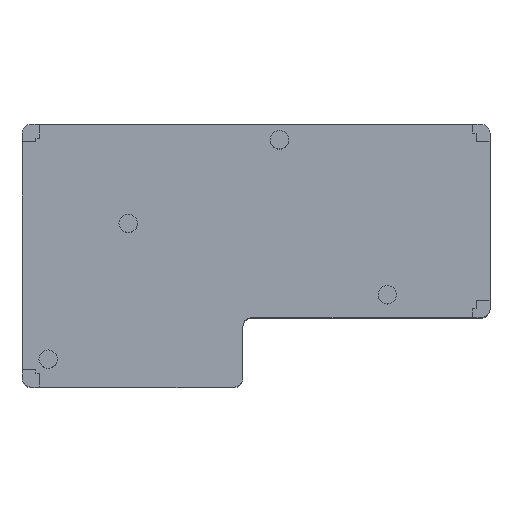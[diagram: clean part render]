
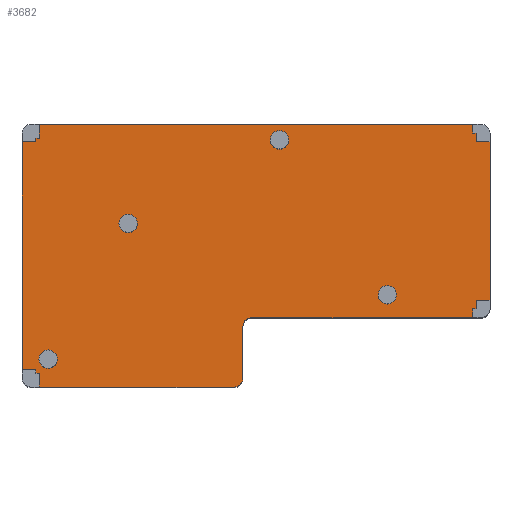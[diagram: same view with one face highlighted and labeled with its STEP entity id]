
A CAD part, top view. The second image highlights one B-rep face of the part: STEP entity #3682.
In plain terms, the highlighted planar face has unit normal (0, 0, 1).
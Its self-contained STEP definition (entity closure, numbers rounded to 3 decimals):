
#2=DIRECTION('',(1.,0.,0.));
#3=VECTOR('',#2,0.2);
#4=CARTESIAN_POINT('',(0.8,10.3,23.6));
#5=LINE('',#4,#3);
#10=DIRECTION('',(1.,0.,0.));
#11=VECTOR('',#10,0.8);
#12=CARTESIAN_POINT('',(0.,-3.,23.6));
#13=LINE('',#12,#11);
#14=DIRECTION('',(0.,-1.,0.));
#15=VECTOR('',#14,13.1);
#16=CARTESIAN_POINT('',(0.,10.1,23.6));
#17=LINE('',#16,#15);
#18=DIRECTION('',(-1.,0.,0.));
#19=VECTOR('',#18,0.8);
#20=CARTESIAN_POINT('',(0.8,10.1,23.6));
#21=LINE('',#20,#19);
#22=DIRECTION('',(0.,-1.,0.));
#23=VECTOR('',#22,0.8);
#24=CARTESIAN_POINT('',(1.,11.1,23.6));
#25=LINE('',#24,#23);
#26=DIRECTION('',(-1.,0.,0.));
#27=VECTOR('',#26,24.9);
#28=CARTESIAN_POINT('',(25.9,11.1,23.6));
#29=LINE('',#28,#27);
#30=DIRECTION('',(0.,1.,0.));
#31=VECTOR('',#30,0.496);
#32=CARTESIAN_POINT('',(25.9,10.604,23.6));
#33=LINE('',#32,#31);
#34=DIRECTION('',(-1.,0.,0.));
#35=VECTOR('',#34,0.8);
#36=CARTESIAN_POINT('',(26.9,10.1,23.6));
#37=LINE('',#36,#35);
#38=DIRECTION('',(0.,1.,0.));
#39=VECTOR('',#38,9.1);
#40=CARTESIAN_POINT('',(26.9,1.,23.6));
#41=LINE('',#40,#39);
#42=DIRECTION('',(1.,0.,0.));
#43=VECTOR('',#42,0.8);
#44=CARTESIAN_POINT('',(26.1,1.,23.6));
#45=LINE('',#44,#43);
#46=DIRECTION('',(0.,1.,0.));
#47=VECTOR('',#46,0.5);
#48=CARTESIAN_POINT('',(25.9,0.,23.6));
#49=LINE('',#48,#47);
#50=DIRECTION('',(1.,0.,0.));
#51=VECTOR('',#50,12.7);
#52=CARTESIAN_POINT('',(13.2,0.,23.6));
#53=LINE('',#52,#51);
#54=CARTESIAN_POINT('',(13.2,-0.5,23.6));
#55=DIRECTION('',(0.,0.,-1.));
#56=DIRECTION('',(-1.,0.,0.));
#57=AXIS2_PLACEMENT_3D('',#54,#55,#56);
#59=DIRECTION('',(0.,1.,0.));
#60=VECTOR('',#59,3.);
#61=CARTESIAN_POINT('',(12.7,-3.5,23.6));
#62=LINE('',#61,#60);
#63=CARTESIAN_POINT('',(12.2,-3.5,23.6));
#64=DIRECTION('',(0.,0.,1.));
#65=DIRECTION('',(0.,-1.,0.));
#66=AXIS2_PLACEMENT_3D('',#63,#64,#65);
#68=DIRECTION('',(1.,0.,0.));
#69=VECTOR('',#68,11.2);
#70=CARTESIAN_POINT('',(1.,-4.,23.6));
#71=LINE('',#70,#69);
#72=DIRECTION('',(0.,-1.,0.));
#73=VECTOR('',#72,0.8);
#74=CARTESIAN_POINT('',(1.,-3.2,23.6));
#75=LINE('',#74,#73);
#76=CARTESIAN_POINT('',(1.5,-2.4,23.6));
#77=DIRECTION('',(0.,0.,1.));
#78=DIRECTION('',(0.,1.,0.));
#79=AXIS2_PLACEMENT_3D('',#76,#77,#78);
#81=CARTESIAN_POINT('',(1.5,-2.4,23.6));
#82=DIRECTION('',(0.,0.,1.));
#83=DIRECTION('',(0.,-1.,0.));
#84=AXIS2_PLACEMENT_3D('',#81,#82,#83);
#86=CARTESIAN_POINT('',(6.1,5.4,23.6));
#87=DIRECTION('',(0.,0.,1.));
#88=DIRECTION('',(0.,1.,0.));
#89=AXIS2_PLACEMENT_3D('',#86,#87,#88);
#91=CARTESIAN_POINT('',(6.1,5.4,23.6));
#92=DIRECTION('',(0.,0.,1.));
#93=DIRECTION('',(0.,-1.,0.));
#94=AXIS2_PLACEMENT_3D('',#91,#92,#93);
#96=CARTESIAN_POINT('',(21.,1.3,23.6));
#97=DIRECTION('',(0.,0.,1.));
#98=DIRECTION('',(0.,1.,0.));
#99=AXIS2_PLACEMENT_3D('',#96,#97,#98);
#101=CARTESIAN_POINT('',(21.,1.3,23.6));
#102=DIRECTION('',(0.,0.,1.));
#103=DIRECTION('',(0.,-1.,0.));
#104=AXIS2_PLACEMENT_3D('',#101,#102,#103);
#106=CARTESIAN_POINT('',(14.8,10.2,23.6));
#107=DIRECTION('',(0.,0.,1.));
#108=DIRECTION('',(0.,1.,0.));
#109=AXIS2_PLACEMENT_3D('',#106,#107,#108);
#111=CARTESIAN_POINT('',(14.8,10.2,23.6));
#112=DIRECTION('',(0.,0.,1.));
#113=DIRECTION('',(0.,-1.,0.));
#114=AXIS2_PLACEMENT_3D('',#111,#112,#113);
#116=DIRECTION('',(0.,1.,0.));
#117=VECTOR('',#116,0.2);
#118=CARTESIAN_POINT('',(0.8,-3.2,23.6));
#119=LINE('',#118,#117);
#128=DIRECTION('',(0.,1.,0.));
#129=VECTOR('',#128,0.2);
#130=CARTESIAN_POINT('',(0.8,10.1,23.6));
#131=LINE('',#130,#129);
#136=DIRECTION('',(1.,0.,0.));
#137=VECTOR('',#136,0.2);
#138=CARTESIAN_POINT('',(0.8,-3.2,23.6));
#139=LINE('',#138,#137);
#192=DIRECTION('',(-1.,0.,0.));
#193=VECTOR('',#192,0.2);
#194=CARTESIAN_POINT('',(26.1,0.5,23.6));
#195=LINE('',#194,#193);
#204=DIRECTION('',(0.,1.,0.));
#205=VECTOR('',#204,0.5);
#206=CARTESIAN_POINT('',(26.1,0.5,23.6));
#207=LINE('',#206,#205);
#216=DIRECTION('',(0.,1.,0.));
#217=VECTOR('',#216,0.504);
#218=CARTESIAN_POINT('',(26.1,10.1,23.6));
#219=LINE('',#218,#217);
#257=DIRECTION('',(1.,0.,0.));
#258=VECTOR('',#257,0.2);
#259=CARTESIAN_POINT('',(25.9,10.604,23.6));
#260=LINE('',#259,#258);
#2852=CARTESIAN_POINT('',(25.9,11.1,23.6));
#2853=CARTESIAN_POINT('',(1.,11.1,23.6));
#2854=VERTEX_POINT('',#2852);
#2855=VERTEX_POINT('',#2853);
#3144=CARTESIAN_POINT('',(12.7,-0.5,23.6));
#3146=VERTEX_POINT('',#3144);
#3148=CARTESIAN_POINT('',(12.7,-3.5,23.6));
#3149=VERTEX_POINT('',#3148);
#3152=CARTESIAN_POINT('',(12.2,-4.,23.6));
#3153=VERTEX_POINT('',#3152);
#3156=CARTESIAN_POINT('',(13.2,0.,23.6));
#3157=VERTEX_POINT('',#3156);
#3172=CARTESIAN_POINT('',(26.9,1.,23.6));
#3173=CARTESIAN_POINT('',(26.9,10.1,23.6));
#3174=VERTEX_POINT('',#3172);
#3175=VERTEX_POINT('',#3173);
#3184=CARTESIAN_POINT('',(0.,10.1,23.6));
#3185=CARTESIAN_POINT('',(0.,-3.,23.6));
#3186=VERTEX_POINT('',#3184);
#3187=VERTEX_POINT('',#3185);
#3192=CARTESIAN_POINT('',(25.9,0.,23.6));
#3193=VERTEX_POINT('',#3192);
#3196=CARTESIAN_POINT('',(1.,-4.,23.6));
#3197=VERTEX_POINT('',#3196);
#3532=CARTESIAN_POINT('',(0.8,10.3,23.6));
#3533=CARTESIAN_POINT('',(1.,10.3,23.6));
#3534=VERTEX_POINT('',#3532);
#3535=VERTEX_POINT('',#3533);
#3536=CARTESIAN_POINT('',(0.8,-3.2,23.6));
#3537=CARTESIAN_POINT('',(1.,-3.2,23.6));
#3538=VERTEX_POINT('',#3536);
#3539=VERTEX_POINT('',#3537);
#3540=CARTESIAN_POINT('',(26.1,0.5,23.6));
#3541=CARTESIAN_POINT('',(25.9,0.5,23.6));
#3542=VERTEX_POINT('',#3540);
#3543=VERTEX_POINT('',#3541);
#3544=CARTESIAN_POINT('',(25.9,10.604,23.6));
#3545=CARTESIAN_POINT('',(26.1,10.604,23.6));
#3546=VERTEX_POINT('',#3544);
#3547=VERTEX_POINT('',#3545);
#3548=CARTESIAN_POINT('',(0.8,-3.,23.6));
#3549=VERTEX_POINT('',#3548);
#3550=CARTESIAN_POINT('',(0.8,10.1,23.6));
#3551=VERTEX_POINT('',#3550);
#3552=CARTESIAN_POINT('',(26.1,1.,23.6));
#3553=VERTEX_POINT('',#3552);
#3554=CARTESIAN_POINT('',(26.1,10.1,23.6));
#3555=VERTEX_POINT('',#3554);
#3572=CARTESIAN_POINT('',(1.5,-1.875,23.6));
#3573=CARTESIAN_POINT('',(1.5,-2.925,23.6));
#3574=VERTEX_POINT('',#3572);
#3575=VERTEX_POINT('',#3573);
#3576=CARTESIAN_POINT('',(6.1,5.925,23.6));
#3577=CARTESIAN_POINT('',(6.1,4.875,23.6));
#3578=VERTEX_POINT('',#3576);
#3579=VERTEX_POINT('',#3577);
#3580=CARTESIAN_POINT('',(21.,1.825,23.6));
#3581=CARTESIAN_POINT('',(21.,0.775,23.6));
#3582=VERTEX_POINT('',#3580);
#3583=VERTEX_POINT('',#3581);
#3584=CARTESIAN_POINT('',(14.8,10.725,23.6));
#3585=CARTESIAN_POINT('',(14.8,9.675,23.6));
#3586=VERTEX_POINT('',#3584);
#3587=VERTEX_POINT('',#3585);
#3604=CARTESIAN_POINT('',(1.3,9.8,23.6));
#3605=DIRECTION('',(0.,0.,1.));
#3606=DIRECTION('',(1.,0.,0.));
#3607=AXIS2_PLACEMENT_3D('',#3604,#3605,#3606);
#3608=PLANE('',#3607);
#3610=ORIENTED_EDGE('',*,*,#3609,.T.);
#3612=ORIENTED_EDGE('',*,*,#3611,.F.);
#3614=ORIENTED_EDGE('',*,*,#3613,.F.);
#3616=ORIENTED_EDGE('',*,*,#3615,.F.);
#3618=ORIENTED_EDGE('',*,*,#3617,.T.);
#3619=ORIENTED_EDGE('',*,*,#3593,.T.);
#3621=ORIENTED_EDGE('',*,*,#3620,.F.);
#3623=ORIENTED_EDGE('',*,*,#3622,.F.);
#3625=ORIENTED_EDGE('',*,*,#3624,.F.);
#3627=ORIENTED_EDGE('',*,*,#3626,.T.);
#3629=ORIENTED_EDGE('',*,*,#3628,.F.);
#3631=ORIENTED_EDGE('',*,*,#3630,.F.);
#3633=ORIENTED_EDGE('',*,*,#3632,.F.);
#3635=ORIENTED_EDGE('',*,*,#3634,.F.);
#3637=ORIENTED_EDGE('',*,*,#3636,.F.);
#3639=ORIENTED_EDGE('',*,*,#3638,.T.);
#3641=ORIENTED_EDGE('',*,*,#3640,.F.);
#3643=ORIENTED_EDGE('',*,*,#3642,.F.);
#3645=ORIENTED_EDGE('',*,*,#3644,.F.);
#3647=ORIENTED_EDGE('',*,*,#3646,.F.);
#3649=ORIENTED_EDGE('',*,*,#3648,.F.);
#3651=ORIENTED_EDGE('',*,*,#3650,.F.);
#3653=ORIENTED_EDGE('',*,*,#3652,.F.);
#3655=ORIENTED_EDGE('',*,*,#3654,.F.);
#3656=EDGE_LOOP('',(#3610,#3612,#3614,#3616,#3618,#3619,#3621,#3623,#3625,#3627,
#3629,#3631,#3633,#3635,#3637,#3639,#3641,#3643,#3645,#3647,#3649,#3651,#3653,
#3655));
#3657=FACE_OUTER_BOUND('',#3656,.F.);
#3659=ORIENTED_EDGE('',*,*,#3658,.T.);
#3661=ORIENTED_EDGE('',*,*,#3660,.T.);
#3662=EDGE_LOOP('',(#3659,#3661));
#3663=FACE_BOUND('',#3662,.F.);
#3665=ORIENTED_EDGE('',*,*,#3664,.T.);
#3667=ORIENTED_EDGE('',*,*,#3666,.T.);
#3668=EDGE_LOOP('',(#3665,#3667));
#3669=FACE_BOUND('',#3668,.F.);
#3671=ORIENTED_EDGE('',*,*,#3670,.T.);
#3673=ORIENTED_EDGE('',*,*,#3672,.T.);
#3674=EDGE_LOOP('',(#3671,#3673));
#3675=FACE_BOUND('',#3674,.F.);
#3677=ORIENTED_EDGE('',*,*,#3676,.T.);
#3679=ORIENTED_EDGE('',*,*,#3678,.T.);
#3680=EDGE_LOOP('',(#3677,#3679));
#3681=FACE_BOUND('',#3680,.F.);
#3682=ADVANCED_FACE('',(#3657,#3663,#3669,#3675,#3681),#3608,.T.);
#58=CIRCLE('',#57,0.5);
#67=CIRCLE('',#66,0.5);
#80=CIRCLE('',#79,0.525);
#85=CIRCLE('',#84,0.525);
#90=CIRCLE('',#89,0.525);
#95=CIRCLE('',#94,0.525);
#100=CIRCLE('',#99,0.525);
#105=CIRCLE('',#104,0.525);
#110=CIRCLE('',#109,0.525);
#115=CIRCLE('',#114,0.525);
#3593=EDGE_CURVE('',#3534,#3535,#5,.T.);
#3609=EDGE_CURVE('',#3538,#3549,#119,.T.);
#3611=EDGE_CURVE('',#3187,#3549,#13,.T.);
#3613=EDGE_CURVE('',#3186,#3187,#17,.T.);
#3615=EDGE_CURVE('',#3551,#3186,#21,.T.);
#3617=EDGE_CURVE('',#3551,#3534,#131,.T.);
#3620=EDGE_CURVE('',#2855,#3535,#25,.T.);
#3622=EDGE_CURVE('',#2854,#2855,#29,.T.);
#3624=EDGE_CURVE('',#3546,#2854,#33,.T.);
#3626=EDGE_CURVE('',#3546,#3547,#260,.T.);
#3628=EDGE_CURVE('',#3555,#3547,#219,.T.);
#3630=EDGE_CURVE('',#3175,#3555,#37,.T.);
#3632=EDGE_CURVE('',#3174,#3175,#41,.T.);
#3634=EDGE_CURVE('',#3553,#3174,#45,.T.);
#3636=EDGE_CURVE('',#3542,#3553,#207,.T.);
#3638=EDGE_CURVE('',#3542,#3543,#195,.T.);
#3640=EDGE_CURVE('',#3193,#3543,#49,.T.);
#3642=EDGE_CURVE('',#3157,#3193,#53,.T.);
#3644=EDGE_CURVE('',#3146,#3157,#58,.T.);
#3646=EDGE_CURVE('',#3149,#3146,#62,.T.);
#3648=EDGE_CURVE('',#3153,#3149,#67,.T.);
#3650=EDGE_CURVE('',#3197,#3153,#71,.T.);
#3652=EDGE_CURVE('',#3539,#3197,#75,.T.);
#3654=EDGE_CURVE('',#3538,#3539,#139,.T.);
#3658=EDGE_CURVE('',#3574,#3575,#80,.T.);
#3660=EDGE_CURVE('',#3575,#3574,#85,.T.);
#3664=EDGE_CURVE('',#3578,#3579,#90,.T.);
#3666=EDGE_CURVE('',#3579,#3578,#95,.T.);
#3670=EDGE_CURVE('',#3582,#3583,#100,.T.);
#3672=EDGE_CURVE('',#3583,#3582,#105,.T.);
#3676=EDGE_CURVE('',#3586,#3587,#110,.T.);
#3678=EDGE_CURVE('',#3587,#3586,#115,.T.);
